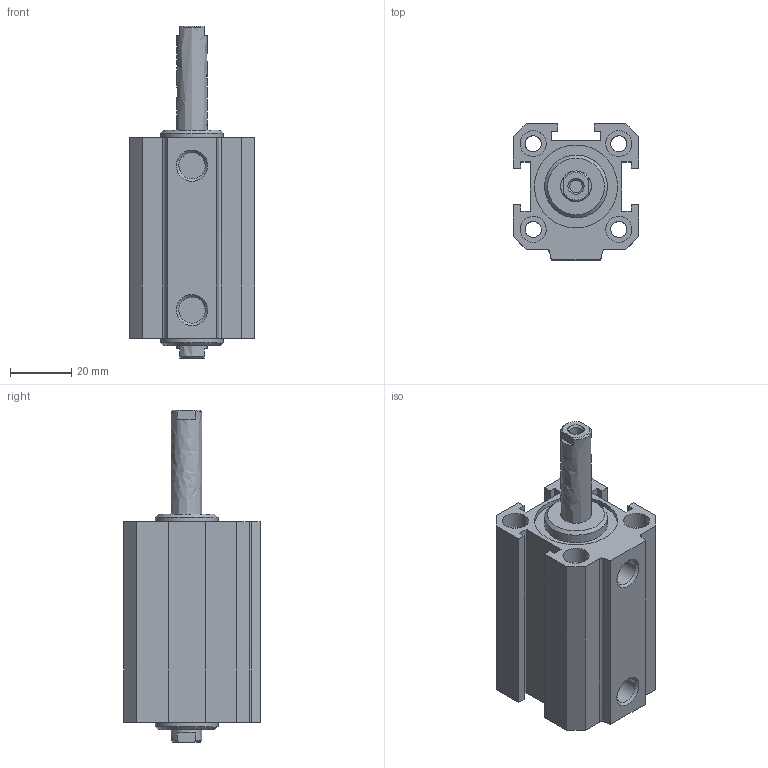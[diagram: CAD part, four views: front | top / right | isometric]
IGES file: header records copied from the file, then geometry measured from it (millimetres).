
Global section: file name: 1514_25_0030; native system: Autodesk Inventor 2014; preprocessor: unknown; author: A. Manieri; date: 20160824.111957; units: millimetre
Bounding box: 41 x 44.5 x 108.5 mm (x, y, z)
Volume: 78913.2 mm3; surface area: 33144.9 mm2
Topology: 2 solids, 2 shells, 106 faces, 280 edges, 198 vertices
Faces by surface type: bspline 106
